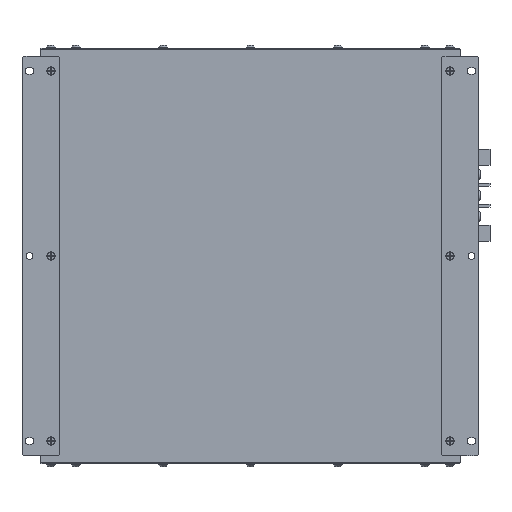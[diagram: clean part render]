
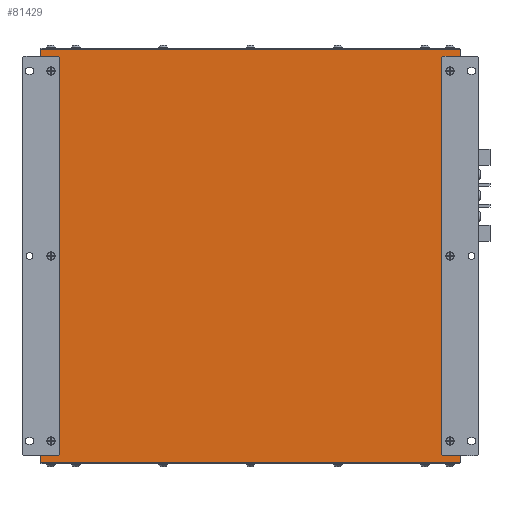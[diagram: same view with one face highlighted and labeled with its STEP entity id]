
A CAD part, front view. The second image highlights one B-rep face of the part: STEP entity #81429.
In plain terms, the highlighted planar face has unit normal (0, -1, 0).
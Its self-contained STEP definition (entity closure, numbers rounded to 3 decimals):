
#4424=PLANE('',#85762);
#7139=LINE('',#116339,#13500);
#7141=LINE('',#116343,#13502);
#7167=LINE('',#116612,#13528);
#7168=LINE('',#116614,#13529);
#7169=LINE('',#116615,#13530);
#7170=LINE('',#116617,#13531);
#7171=LINE('',#116621,#13532);
#7172=LINE('',#116624,#13533);
#7173=LINE('',#116626,#13534);
#7174=LINE('',#116628,#13535);
#7175=LINE('',#116630,#13536);
#7176=LINE('',#116634,#13537);
#13500=VECTOR('',#93797,0.394);
#13502=VECTOR('',#93799,0.394);
#13528=VECTOR('',#94043,0.394);
#13529=VECTOR('',#94044,0.394);
#13530=VECTOR('',#94045,0.394);
#13531=VECTOR('',#94046,0.394);
#13532=VECTOR('',#94049,0.394);
#13533=VECTOR('',#94052,0.394);
#13534=VECTOR('',#94053,0.394);
#13535=VECTOR('',#94054,0.394);
#13536=VECTOR('',#94055,0.394);
#13537=VECTOR('',#94058,0.394);
#20678=FACE_OUTER_BOUND('',#24812,.T.);
#24812=EDGE_LOOP('',(#55624,#55625,#55626,#55627,#55628,#55629,#55630,#55631,
#55632,#55633,#55634,#55635,#55636,#55637,#55638,#55639));
#29333=CIRCLE('',#85763,0.157);
#29334=CIRCLE('',#85764,0.157);
#29335=CIRCLE('',#85765,0.157);
#29336=CIRCLE('',#85766,0.157);
#32895=VERTEX_POINT('',#116336);
#32896=VERTEX_POINT('',#116338);
#32897=VERTEX_POINT('',#116340);
#32898=VERTEX_POINT('',#116342);
#33031=VERTEX_POINT('',#116610);
#33032=VERTEX_POINT('',#116611);
#33033=VERTEX_POINT('',#116613);
#33034=VERTEX_POINT('',#116616);
#33035=VERTEX_POINT('',#116618);
#33036=VERTEX_POINT('',#116620);
#33037=VERTEX_POINT('',#116622);
#33038=VERTEX_POINT('',#116625);
#33039=VERTEX_POINT('',#116627);
#33040=VERTEX_POINT('',#116629);
#33041=VERTEX_POINT('',#116631);
#33042=VERTEX_POINT('',#116633);
#41908=EDGE_CURVE('',#32895,#32896,#7139,.T.);
#41910=EDGE_CURVE('',#32897,#32898,#7141,.T.);
#42044=EDGE_CURVE('',#33031,#33032,#7167,.T.);
#42045=EDGE_CURVE('',#33033,#33032,#7168,.T.);
#42046=EDGE_CURVE('',#32898,#33033,#7169,.T.);
#42047=EDGE_CURVE('',#32897,#33034,#7170,.T.);
#42048=EDGE_CURVE('',#33034,#33035,#29333,.T.);
#42049=EDGE_CURVE('',#33035,#33036,#7171,.T.);
#42050=EDGE_CURVE('',#33036,#33037,#29334,.T.);
#42051=EDGE_CURVE('',#33037,#32896,#7172,.T.);
#42052=EDGE_CURVE('',#33038,#32895,#7173,.T.);
#42053=EDGE_CURVE('',#33039,#33038,#7174,.T.);
#42054=EDGE_CURVE('',#33039,#33040,#7175,.T.);
#42055=EDGE_CURVE('',#33040,#33041,#29335,.T.);
#42056=EDGE_CURVE('',#33041,#33042,#7176,.T.);
#42057=EDGE_CURVE('',#33042,#33031,#29336,.T.);
#55624=ORIENTED_EDGE('',*,*,#42044,.T.);
#55625=ORIENTED_EDGE('',*,*,#42045,.F.);
#55626=ORIENTED_EDGE('',*,*,#42046,.F.);
#55627=ORIENTED_EDGE('',*,*,#41910,.F.);
#55628=ORIENTED_EDGE('',*,*,#42047,.T.);
#55629=ORIENTED_EDGE('',*,*,#42048,.T.);
#55630=ORIENTED_EDGE('',*,*,#42049,.T.);
#55631=ORIENTED_EDGE('',*,*,#42050,.T.);
#55632=ORIENTED_EDGE('',*,*,#42051,.T.);
#55633=ORIENTED_EDGE('',*,*,#41908,.F.);
#55634=ORIENTED_EDGE('',*,*,#42052,.F.);
#55635=ORIENTED_EDGE('',*,*,#42053,.F.);
#55636=ORIENTED_EDGE('',*,*,#42054,.T.);
#55637=ORIENTED_EDGE('',*,*,#42055,.T.);
#55638=ORIENTED_EDGE('',*,*,#42056,.T.);
#55639=ORIENTED_EDGE('',*,*,#42057,.T.);
#81429=ADVANCED_FACE('',(#20678),#4424,.F.);
#85762=AXIS2_PLACEMENT_3D('',#116609,#94041,#94042);
#85763=AXIS2_PLACEMENT_3D('',#116619,#94047,#94048);
#85764=AXIS2_PLACEMENT_3D('',#116623,#94050,#94051);
#85765=AXIS2_PLACEMENT_3D('',#116632,#94056,#94057);
#85766=AXIS2_PLACEMENT_3D('',#116635,#94059,#94060);
#93797=DIRECTION('',(0.,0.,1.));
#93799=DIRECTION('',(0.,0.,1.));
#94041=DIRECTION('center_axis',(0.,1.,0.));
#94042=DIRECTION('ref_axis',(0.,0.,1.));
#94043=DIRECTION('',(1.,0.,0.));
#94044=DIRECTION('',(0.,0.,-1.));
#94045=DIRECTION('',(1.,0.,0.));
#94046=DIRECTION('',(1.,0.,0.));
#94047=DIRECTION('center_axis',(0.,1.,0.));
#94048=DIRECTION('ref_axis',(1.,0.,0.));
#94049=DIRECTION('',(0.,0.,-1.));
#94050=DIRECTION('center_axis',(0.,1.,0.));
#94051=DIRECTION('ref_axis',(0.,0.,-1.));
#94052=DIRECTION('',(-1.,0.,0.));
#94053=DIRECTION('',(-1.,0.,0.));
#94054=DIRECTION('',(0.,0.,-1.));
#94055=DIRECTION('',(-1.,0.,0.));
#94056=DIRECTION('center_axis',(0.,1.,0.));
#94057=DIRECTION('ref_axis',(-1.,0.,0.));
#94058=DIRECTION('',(0.,0.,1.));
#94059=DIRECTION('center_axis',(0.,1.,0.));
#94060=DIRECTION('ref_axis',(0.,0.,1.));
#116336=CARTESIAN_POINT('',(-0.973,0.,-16.565));
#116338=CARTESIAN_POINT('',(-0.973,0.,-16.325));
#116339=CARTESIAN_POINT('',(-0.973,0.,-16.565));
#116340=CARTESIAN_POINT('',(-0.973,0.,-0.577));
#116342=CARTESIAN_POINT('',(-0.973,0.,-0.336));
#116343=CARTESIAN_POINT('',(-0.973,0.,-16.565));
#116609=CARTESIAN_POINT('Origin',(7.275,0.,-8.451));
#116610=CARTESIAN_POINT('',(14.932,0.,-0.577));
#116611=CARTESIAN_POINT('',(15.523,0.,-0.577));
#116612=CARTESIAN_POINT('',(11.694,0.,-0.577));
#116613=CARTESIAN_POINT('',(15.523,0.,-0.336));
#116614=CARTESIAN_POINT('',(15.523,0.,-0.336));
#116615=CARTESIAN_POINT('',(-0.973,0.,-0.336));
#116616=CARTESIAN_POINT('',(-0.383,0.,-0.577));
#116617=CARTESIAN_POINT('',(3.446,0.,-0.577));
#116618=CARTESIAN_POINT('',(-0.225,0.,-0.734));
#116619=CARTESIAN_POINT('Origin',(-0.383,0.,-0.734));
#116620=CARTESIAN_POINT('',(-0.225,0.,-16.167));
#116621=CARTESIAN_POINT('',(-0.225,0.,-12.309));
#116622=CARTESIAN_POINT('',(-0.383,0.,-16.325));
#116623=CARTESIAN_POINT('Origin',(-0.383,0.,-16.167));
#116624=CARTESIAN_POINT('',(2.855,0.,-16.325));
#116625=CARTESIAN_POINT('',(15.523,0.,-16.565));
#116626=CARTESIAN_POINT('',(15.523,0.,-16.565));
#116627=CARTESIAN_POINT('',(15.523,0.,-16.325));
#116628=CARTESIAN_POINT('',(15.523,0.,-0.336));
#116629=CARTESIAN_POINT('',(14.932,0.,-16.325));
#116630=CARTESIAN_POINT('',(11.103,0.,-16.325));
#116631=CARTESIAN_POINT('',(14.775,0.,-16.167));
#116632=CARTESIAN_POINT('Origin',(14.932,0.,-16.167));
#116633=CARTESIAN_POINT('',(14.775,0.,-0.734));
#116634=CARTESIAN_POINT('',(14.775,0.,-4.592));
#116635=CARTESIAN_POINT('Origin',(14.932,0.,-0.734));
